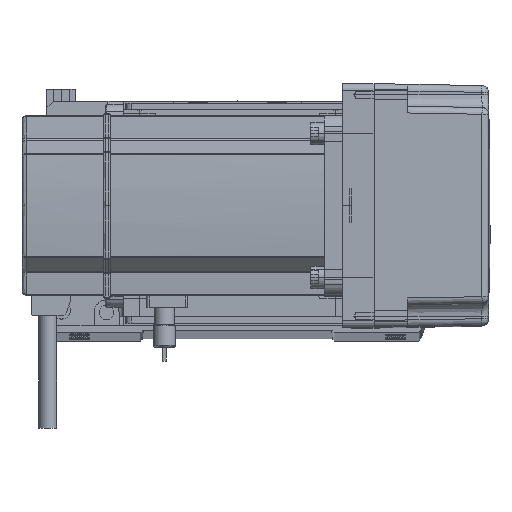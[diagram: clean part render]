
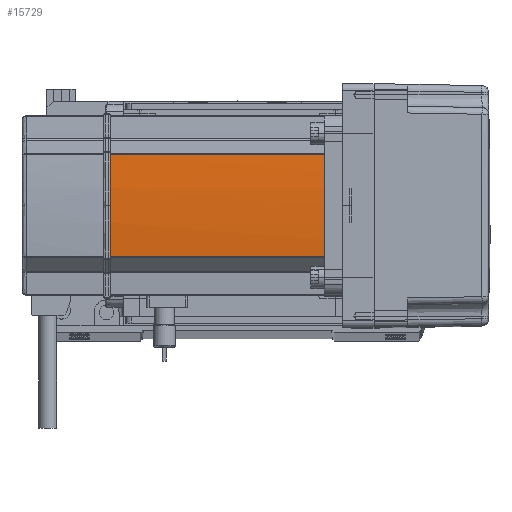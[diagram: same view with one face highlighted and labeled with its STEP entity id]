
A CAD part, top view. The second image highlights one B-rep face of the part: STEP entity #15729.
In plain terms, the highlighted cylindrical face has radius 270 mm (diameter 540 mm), a partial arc.
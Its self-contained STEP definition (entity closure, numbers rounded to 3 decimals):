
#2421 = DIRECTION ( 'NONE',  ( 0., 0., 1. ) ) ;
#3818 = ORIENTED_EDGE ( 'NONE', *, *, #52365, .T. ) ;
#7150 = DIRECTION ( 'NONE',  ( 1., 0., 0. ) ) ;
#7213 = CARTESIAN_POINT ( 'NONE',  ( 230., 0., 134. ) ) ;
#7838 = DIRECTION ( 'NONE',  ( 0., 0., -1. ) ) ;
#8410 = CARTESIAN_POINT ( 'NONE',  ( -39.042, 22.724, 134. ) ) ;
#8912 = DIRECTION ( 'NONE',  ( 0., 0., -1. ) ) ;
#8929 = DIRECTION ( 'NONE',  ( 1., 0., 0. ) ) ;
#10625 = CIRCLE ( 'NONE', #24197, 270. ) ;
#12362 = VECTOR ( 'NONE', #33955, 1000. ) ;
#14129 = CIRCLE ( 'NONE', #24830, 270. ) ;
#14328 = VERTEX_POINT ( 'NONE', #34340 ) ;
#14995 = AXIS2_PLACEMENT_3D ( 'NONE', #60310, #26848, #7150 ) ;
#15729 = ADVANCED_FACE ( 'NONE', ( #40625 ), #19425, .T. ) ;
#17223 = CARTESIAN_POINT ( 'NONE',  ( -39.042, -22.724, 0. ) ) ;
#19425 = CYLINDRICAL_SURFACE ( 'NONE', #14995, 270. ) ;
#24023 = CIRCLE ( 'NONE', #28543, 270. ) ;
#24197 = AXIS2_PLACEMENT_3D ( 'NONE', #47396, #8912, #57156 ) ;
#24830 = AXIS2_PLACEMENT_3D ( 'NONE', #52557, #43204, #8929 ) ;
#26848 = DIRECTION ( 'NONE',  ( 0., 0., 1. ) ) ;
#28403 = CARTESIAN_POINT ( 'NONE',  ( -39.042, -22.724, 39. ) ) ;
#28543 = AXIS2_PLACEMENT_3D ( 'NONE', #7213, #7838, #50596 ) ;
#28835 = VERTEX_POINT ( 'NONE', #28403 ) ;
#32934 = CARTESIAN_POINT ( 'NONE',  ( -40., 0., 134. ) ) ;
#33955 = DIRECTION ( 'NONE',  ( 0., 0., -1. ) ) ;
#34340 = CARTESIAN_POINT ( 'NONE',  ( -39.042, 22.724, 39. ) ) ;
#38773 = VECTOR ( 'NONE', #2421, 1000. ) ;
#40625 = FACE_OUTER_BOUND ( 'NONE', #49743, .T. ) ;
#41944 = ORIENTED_EDGE ( 'NONE', *, *, #54699, .T. ) ;
#43204 = DIRECTION ( 'NONE',  ( 0., 0., -1. ) ) ;
#43486 = CARTESIAN_POINT ( 'NONE',  ( -39.042, 22.724, 0. ) ) ;
#46006 = EDGE_CURVE ( 'NONE', #55180, #48928, #24023, .T. ) ;
#46392 = LINE ( 'NONE', #43486, #12362 ) ;
#47396 = CARTESIAN_POINT ( 'NONE',  ( 230., 0., 39. ) ) ;
#47560 = ORIENTED_EDGE ( 'NONE', *, *, #62498, .T. ) ;
#48928 = VERTEX_POINT ( 'NONE', #8410 ) ;
#49743 = EDGE_LOOP ( 'NONE', ( #47560, #59141, #41944, #50759, #3818 ) ) ;
#50596 = DIRECTION ( 'NONE',  ( 1., 0., 0. ) ) ;
#50759 = ORIENTED_EDGE ( 'NONE', *, *, #57249, .F. ) ;
#51646 = LINE ( 'NONE', #17223, #38773 ) ;
#52365 = EDGE_CURVE ( 'NONE', #28835, #52733, #51646, .T. ) ;
#52557 = CARTESIAN_POINT ( 'NONE',  ( 230., 0., 134. ) ) ;
#52733 = VERTEX_POINT ( 'NONE', #58849 ) ;
#54699 = EDGE_CURVE ( 'NONE', #48928, #14328, #46392, .T. ) ;
#55180 = VERTEX_POINT ( 'NONE', #32934 ) ;
#57156 = DIRECTION ( 'NONE',  ( 1., 0., 0. ) ) ;
#57249 = EDGE_CURVE ( 'NONE', #28835, #14328, #10625, .T. ) ;
#58849 = CARTESIAN_POINT ( 'NONE',  ( -39.042, -22.724, 134. ) ) ;
#59141 = ORIENTED_EDGE ( 'NONE', *, *, #46006, .T. ) ;
#60310 = CARTESIAN_POINT ( 'NONE',  ( 230., 0., 0. ) ) ;
#62498 = EDGE_CURVE ( 'NONE', #52733, #55180, #14129, .T. ) ;
